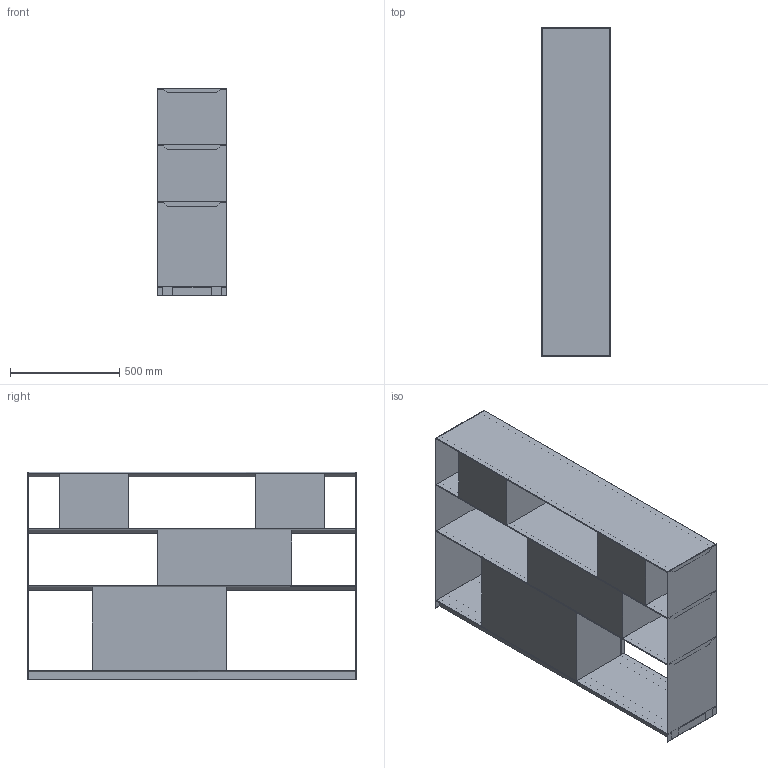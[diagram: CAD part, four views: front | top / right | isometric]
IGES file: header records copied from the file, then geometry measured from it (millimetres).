
Start section: Comment
Global section: file name: Stack - 150 x 095.igs; native system:  By UGS Corp.; preprocessor: XPlus GENERIC/IGES 3.0; author: Author; organization: Title; date: 20141016.143819; units: inch
Bounding box: 319 x 1505 x 953 mm (x, y, z)
Surface area: 8980443 mm2 (no closed solid volume)
Topology: 0 solids, 0 shells, 134 faces, 640 edges, 640 vertices
Faces by surface type: bspline 134
